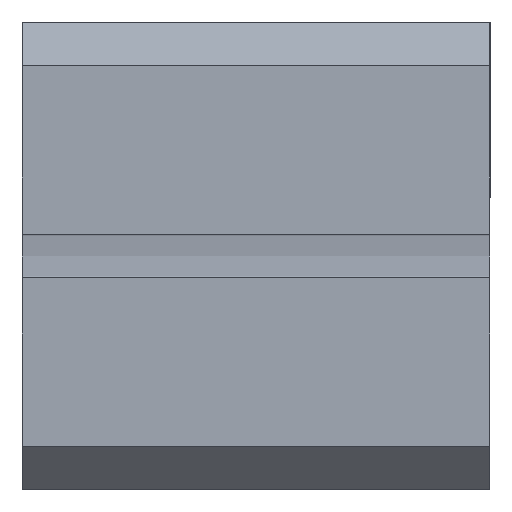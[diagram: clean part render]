
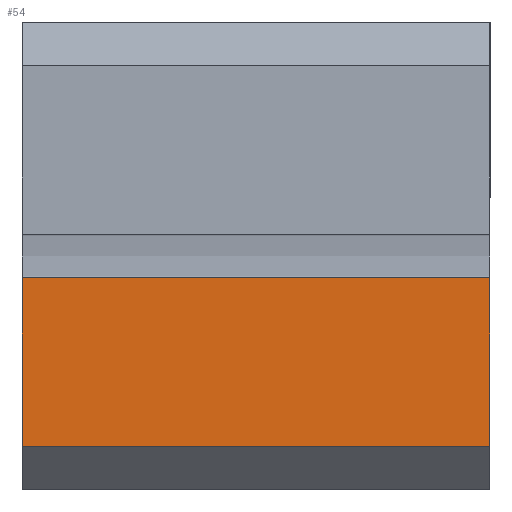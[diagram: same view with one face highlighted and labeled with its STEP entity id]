
A CAD part, left-side view. The second image highlights one B-rep face of the part: STEP entity #54.
In plain terms, the highlighted planar face has unit normal (-1, 0, 0).
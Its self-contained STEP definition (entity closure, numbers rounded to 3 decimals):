
#20 = VERTEX_POINT ( 'NONE', #246 ) ;
#27 = CARTESIAN_POINT ( 'NONE',  ( -6., -8., -6.5 ) ) ;
#54 = ADVANCED_FACE ( 'NONE', ( #349 ), #604, .F. ) ;
#66 = ORIENTED_EDGE ( 'NONE', *, *, #405, .T. ) ;
#77 = CARTESIAN_POINT ( 'NONE',  ( -6., 8., -8. ) ) ;
#86 = ORIENTED_EDGE ( 'NONE', *, *, #369, .T. ) ;
#92 = LINE ( 'NONE', #165, #551 ) ;
#150 = CARTESIAN_POINT ( 'NONE',  ( -6., -8., -8. ) ) ;
#163 = VERTEX_POINT ( 'NONE', #587 ) ;
#165 = CARTESIAN_POINT ( 'NONE',  ( -6., -8., -0.75 ) ) ;
#187 = LINE ( 'NONE', #77, #413 ) ;
#193 = VECTOR ( 'NONE', #602, 1000. ) ;
#195 = AXIS2_PLACEMENT_3D ( 'NONE', #310, #243, #459 ) ;
#205 = EDGE_LOOP ( 'NONE', ( #836, #86, #895, #66 ) ) ;
#243 = DIRECTION ( 'NONE',  ( 1., 0., 0. ) ) ;
#246 = CARTESIAN_POINT ( 'NONE',  ( -6., 8., -0.75 ) ) ;
#292 = CARTESIAN_POINT ( 'NONE',  ( -6., 8., -6.5 ) ) ;
#310 = CARTESIAN_POINT ( 'NONE',  ( -6., 8., -8. ) ) ;
#332 = VERTEX_POINT ( 'NONE', #423 ) ;
#349 = FACE_OUTER_BOUND ( 'NONE', #205, .T. ) ;
#369 = EDGE_CURVE ( 'NONE', #332, #467, #733, .T. ) ;
#383 = VECTOR ( 'NONE', #431, 1000. ) ;
#405 = EDGE_CURVE ( 'NONE', #163, #20, #92, .T. ) ;
#408 = LINE ( 'NONE', #150, #383 ) ;
#413 = VECTOR ( 'NONE', #766, 1000. ) ;
#423 = CARTESIAN_POINT ( 'NONE',  ( -6., 8., -6.5 ) ) ;
#431 = DIRECTION ( 'NONE',  ( 0., 0., 1. ) ) ;
#459 = DIRECTION ( 'NONE',  ( 0., 0., -1. ) ) ;
#467 = VERTEX_POINT ( 'NONE', #27 ) ;
#485 = EDGE_CURVE ( 'NONE', #467, #163, #408, .T. ) ;
#551 = VECTOR ( 'NONE', #800, 1000. ) ;
#587 = CARTESIAN_POINT ( 'NONE',  ( -6., -8., -0.75 ) ) ;
#602 = DIRECTION ( 'NONE',  ( 0., -1., 0. ) ) ;
#604 = PLANE ( 'NONE',  #195 ) ;
#730 = EDGE_CURVE ( 'NONE', #332, #20, #187, .T. ) ;
#733 = LINE ( 'NONE', #292, #193 ) ;
#766 = DIRECTION ( 'NONE',  ( 0., 0., 1. ) ) ;
#800 = DIRECTION ( 'NONE',  ( 0., 1., 0. ) ) ;
#836 = ORIENTED_EDGE ( 'NONE', *, *, #730, .F. ) ;
#895 = ORIENTED_EDGE ( 'NONE', *, *, #485, .T. ) ;
